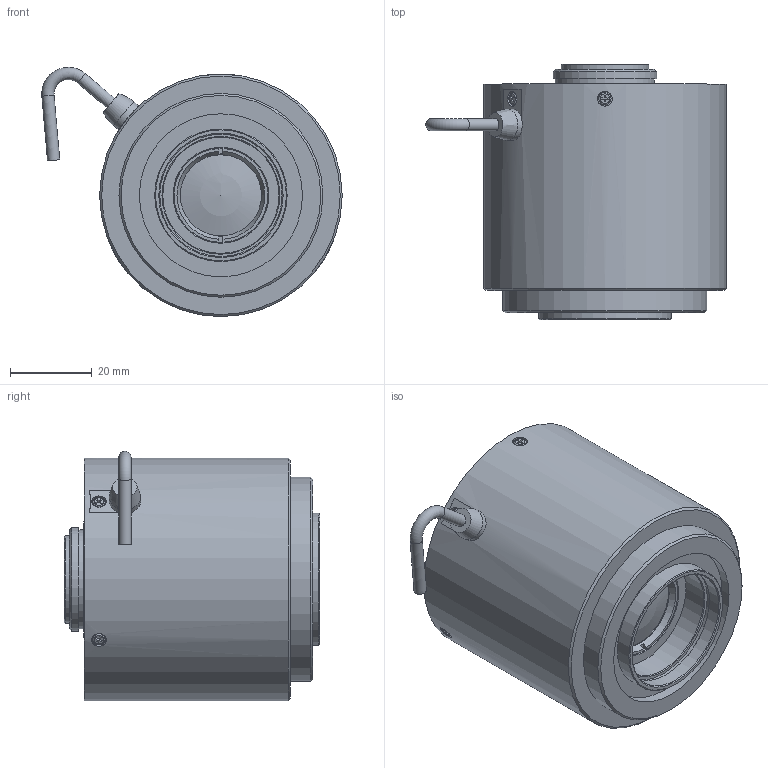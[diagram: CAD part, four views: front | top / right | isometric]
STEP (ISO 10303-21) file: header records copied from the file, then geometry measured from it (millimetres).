
FILE_DESCRIPTION(('STEP AP214'),'1');
FILE_NAME('DL3525UC-MPY.stp','2023-08-24T06:36:36',(' '),(' '),'Spatial InterOp 3D',' ',' ');
FILE_SCHEMA(('AUTOMOTIVE_DESIGN { 1 0 10303 214 1 1 1 1 }'));
Length unit declared in the file: metre
Products named in the file (2): DL3525UC-MPY; Component1
Assembly tree (1 placements, depth 2):
  DL3525UC-MPY
    Component1
Bounding box: 73.68 x 62.69 x 61.13 mm (x, y, z)
Volume: 146537.9 mm3; surface area: 18830 mm2
Topology: 1 solids, 6 shells, 284 faces, 677 edges, 445 vertices
Faces by surface type: plane 196, cylinder 55, cone 21, torus 9, sphere 2, bspline 1
Full cylindrical faces by diameter (mm): 1 x2, 2 x4, 2.2 x4, 3 x10, 3.6 x4, 3.8 x4, 7.699 x1, 14.6 x1, 15.212 x1, 19.9 x1, 21.5 x1, 24.3 x1, 25.4 x1, 28.5 x1, 29 x1, 30 x1, 30.5 x1, 32.5 x1, 40 x1, 50 x1, 59.5 x1
Entity records: 10152 total; most frequent: CARTESIAN_POINT 1566, DIRECTION 1263, ORIENTED_EDGE 1166, EDGE_CURVE 583, LINE 441, VECTOR 441, VERTEX_POINT 427, AXIS2_PLACEMENT_3D 411
